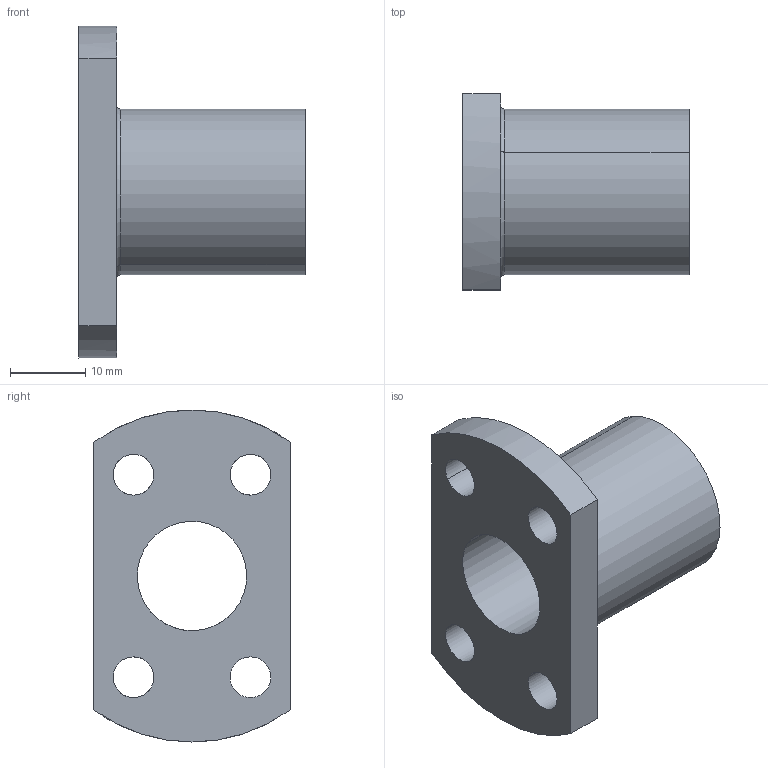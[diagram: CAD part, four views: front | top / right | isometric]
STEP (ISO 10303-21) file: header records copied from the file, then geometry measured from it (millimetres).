
FILE_DESCRIPTION(('CATIA V5 STEP Exchange'),'2;1');
FILE_NAME('C:\Users\aa\Documents\이댈\TM\ATM\ATM14.stp','2020-03-24T08:54:03+00:00',('none'),('none'),'CATIA Version 5 Release 20 SP 7 (IN-10)','CATIA V5 STEP AP203','none');
FILE_SCHEMA(('CONFIG_CONTROL_DESIGN'));
Length unit declared in the file: millimetre
Products named in the file (1): ATM14
Bounding box: 30 x 26 x 44 mm (x, y, z)
Volume: 9462.2 mm3; surface area: 5685.5 mm2
Topology: 1 solids, 1 shells, 21 faces, 52 edges, 34 vertices
Faces by surface type: cylinder 14, plane 5, torus 2
Entity records: 822 total; most frequent: CARTESIAN_POINT 280, ORIENTED_EDGE 104, DIRECTION 83, EDGE_CURVE 52, AXIS2_PLACEMENT_3D 43, VERTEX_POINT 34, EDGE_LOOP 32, ADVANCED_FACE 21
